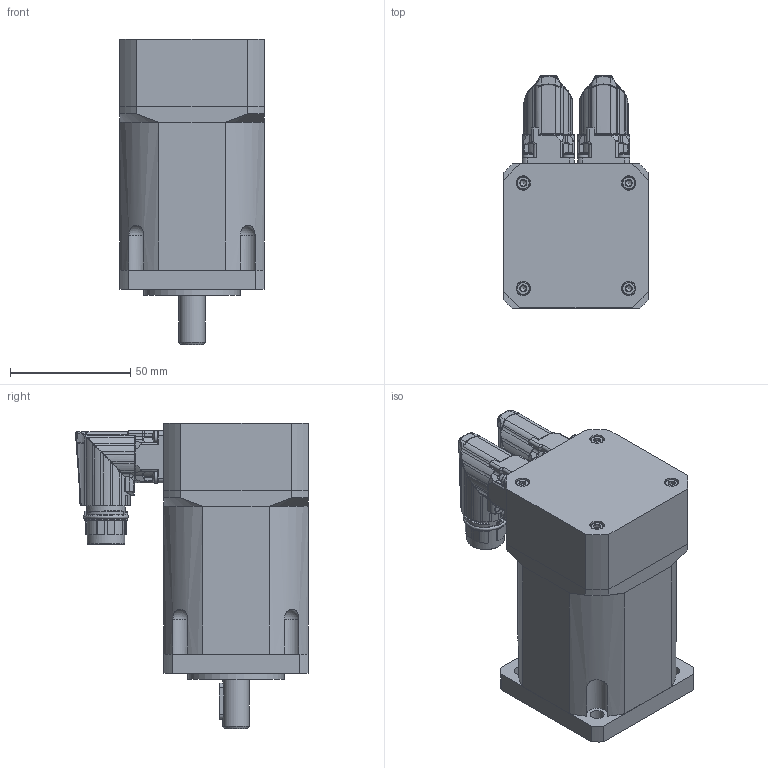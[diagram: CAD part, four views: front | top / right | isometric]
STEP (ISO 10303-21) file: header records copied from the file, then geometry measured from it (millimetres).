
FILE_DESCRIPTION(/* description */ (''),/* implementation_level */ '2;1');
FILE_NAME(/* name */ 'C:\Users\Public\Documents\Autodesk\Inventor LT 2014\Workspace\TG2\DSM5_2x_xxx8\DSM5_21_xxx8.stp',/* time_stamp */ '2016-04-28T09:32:54+02:00',/* author */ ('motion'),/* organization */ (''),/* preprocessor_version */ 'ST-DEVELOPER v15.2',/* originating_system */ 'Autodesk Inventor LT ',/* authorisation */ '');
FILE_SCHEMA (('AUTOMOTIVE_DESIGN { 1 0 10303 214 3 1 1 }'));
Products named in the file (1): DSM5_21_xxx8
Bounding box: 60 x 96.55 x 127 mm (x, y, z)
Volume: 387124 mm3; surface area: 72205.1 mm2
Topology: 15 solids, 15 shells, 2671 faces, 6846 edges, 4229 vertices
Faces by surface type: cylinder 935, plane 721, bspline 395, torus 282, cone 240, sphere 98
Full cylindrical faces by diameter (mm): 0.6 x17, 1 x7, 1.1 x17, 2.1 x15, 2.224 x8, 2.5 x8, 2.7 x8, 3 x8, 3.2 x6, 3.242 x1, 4.8 x2, 5 x2, 5.5 x8, 5.8 x4, 6 x8, 11 x1, 11.7 x1, 13.701 x1, 14.2 x2, 15 x1, 15.54 x2, 16 x1, 25 x1, 28 x1, 35 x2, 40 x1
Entity records: 115947 total; most frequent: CARTESIAN_POINT 52315, ORIENTED_EDGE 12786, DIRECTION 12629, EDGE_CURVE 6393, AXIS2_PLACEMENT_3D 5296, VERTEX_POINT 4136, EDGE_LOOP 3098, ADVANCED_FACE 2671
